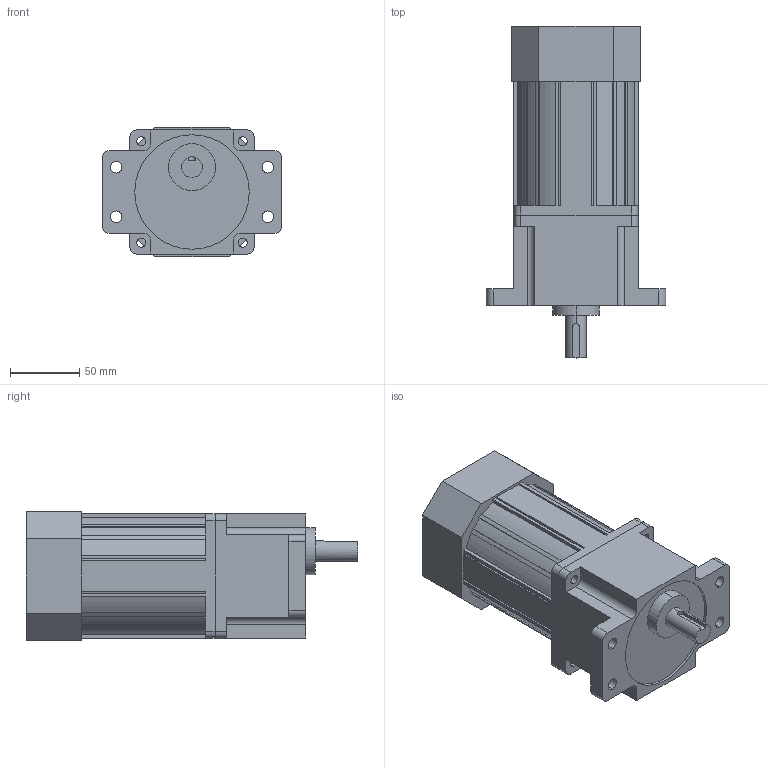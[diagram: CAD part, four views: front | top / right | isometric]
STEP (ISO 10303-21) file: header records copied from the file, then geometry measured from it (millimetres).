
FILE_DESCRIPTION (( 'STEP AP203' ), '1' );
FILE_NAME ('L9WK003B + L9I120PBH.STEP', '2018-09-20T05:36:58', ( '' ), ( '' ), 'SwSTEP 2.0', 'SolidWorks 2017', '' );
FILE_SCHEMA (( 'CONFIG_CONTROL_DESIGN' ));
Length unit declared in the file: millimetre
Products named in the file (1): L9WK003B + L9I120PBH
Bounding box: 130 x 240.5 x 94 mm (x, y, z)
Volume: 1466384.8 mm3; surface area: 115238.1 mm2
Topology: 2 solids, 2 shells, 170 faces, 486 edges, 324 vertices
Faces by surface type: plane 103, cylinder 67
Entity records: 5714 total; most frequent: CARTESIAN_POINT 1013, ORIENTED_EDGE 972, DIRECTION 959, EDGE_CURVE 486, VECTOR 351, LINE 351, VERTEX_POINT 324, AXIS2_PLACEMENT_3D 304
